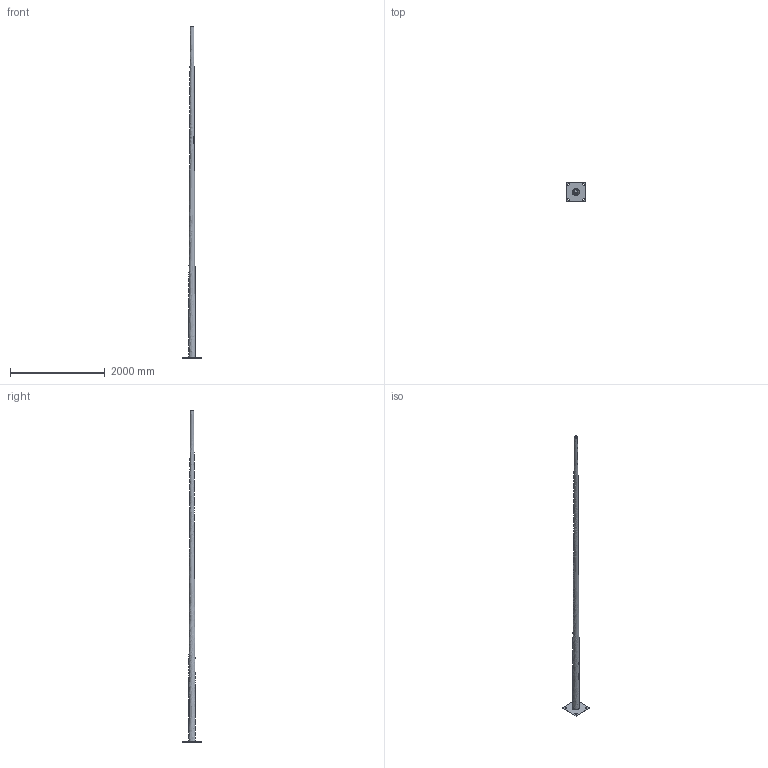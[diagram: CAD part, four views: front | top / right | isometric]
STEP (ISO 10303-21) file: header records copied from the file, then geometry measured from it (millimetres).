
FILE_DESCRIPTION(('FreeCAD Model'),'2;1');
FILE_NAME('Open CASCADE Shape Model','2024-12-18T14:37:30',(''),(''), 'Open CASCADE STEP processor 7.8','FreeCAD','Unknown');
FILE_SCHEMA(('AUTOMOTIVE_DESIGN { 1 0 10303 214 1 1 1 1 }'));
Length unit declared in the file: millimetre
Products named in the file (1): Body
Bounding box: 412 x 412 x 7000 mm (x, y, z)
Volume: 7938355.9 mm3; surface area: 5087108.8 mm2
Topology: 1 solids, 1 shells, 51 faces, 140 edges, 93 vertices
Faces by surface type: plane 32, cylinder 16, bspline 2, offset 1
Entity records: 3060 total; most frequent: CARTESIAN_POINT 1817, ORIENTED_EDGE 280, DIRECTION 198, EDGE_CURVE 140, VERTEX_POINT 93, LINE 68, VECTOR 68, AXIS2_PLACEMENT_3D 65
